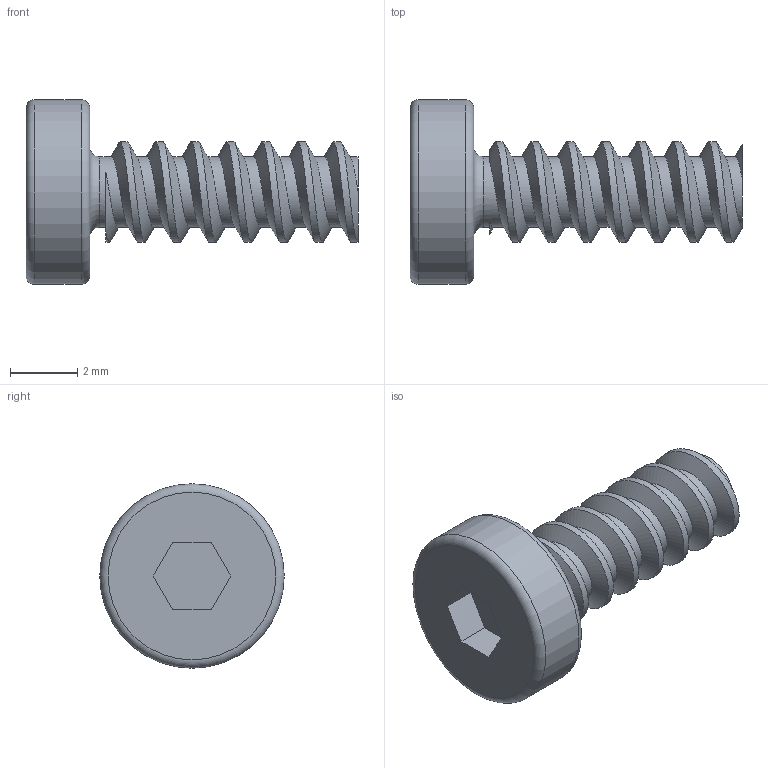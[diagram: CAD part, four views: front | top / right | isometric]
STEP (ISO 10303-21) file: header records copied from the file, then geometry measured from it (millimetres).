
FILE_DESCRIPTION(/* description */ (''),/* implementation_level */ '2;1');
FILE_NAME(/* name */ 'Y.JG.WJ.B00121，T3X8-B，平头内六角H2.0，1018A，加硬，锌镍合金黑色.stp',/* time_stamp */ '2024-04-09T16:37:01+08:00',/* author */ (''),/* organization */ (''),/* preprocessor_version */ 'ST-DEVELOPER v16.7',/* originating_system */ 'SIEMENS PLM Software NX 12.0',/* authorisation */ '');
FILE_SCHEMA (('AUTOMOTIVE_DESIGN { 1 0 10303 214 3 1 1 1 }'));
Length unit declared in the file: millimetre
Products named in the file (1): Y.JG.WJ.B00120，T3X6-B，平头内六角H2.0，1
018A，加硬，锌镍合金黑色_dwg
Bounding box: 9.9 x 5.5 x 5.5 mm (x, y, z)
Volume: 80.4 mm3; surface area: 177.6 mm2
Topology: 1 solids, 1 shells, 26 faces, 63 edges, 41 vertices
Faces by surface type: plane 11, cylinder 10, torus 3, bspline 2
Full cylindrical faces by diameter (mm): 2.1 x7, 5.5 x1
Entity records: 2681 total; most frequent: CARTESIAN_POINT 2285, ORIENTED_EDGE 72, DIRECTION 68, EDGE_CURVE 36, AXIS2_PLACEMENT_3D 28, EDGE_LOOP 26, VERTEX_POINT 26, ADVANCED_FACE 19
